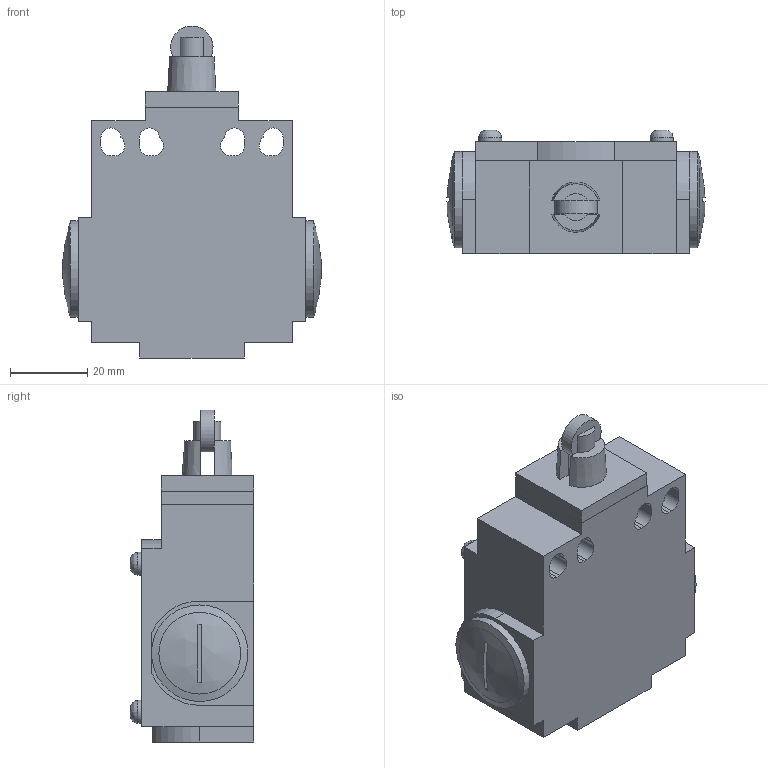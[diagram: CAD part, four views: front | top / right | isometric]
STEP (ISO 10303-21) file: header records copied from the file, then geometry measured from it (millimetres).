
FILE_DESCRIPTION((''),'2;1');
FILE_NAME('D:\Documenti_D\Corrispondenza\Comepi\Catalogo da fare\Modelli Nov 2011\DM e CM\STEP\DM1-F12.iam.step','2011-11-17T12:00:55',(''),(''),'Autodesk Inventor 2010','Autodesk Inventor 2010','');
FILE_SCHEMA(('AUTOMOTIVE_DESIGN { 1 0 10303 214 1 1 1 1 }'));
Length unit declared in the file: millimetre
Products named in the file (7): DM1-F12; T12.iam; T12_1; T12_2; DM1; tappo
Assembly tree (7 placements, depth 3):
  DM1-F12
    T12.iam
      T12_1
      T12_2
    DM1
      DM1
      tappo  x2
Bounding box: 66.83 x 32 x 86 mm (x, y, z)
Volume: 72213.7 mm3; surface area: 24156.1 mm2
Topology: 5 solids, 5 shells, 111 faces, 277 edges, 181 vertices
Faces by surface type: plane 69, cylinder 31, cone 5, bspline 4, sphere 2
Full cylindrical faces by diameter (mm): 6 x4, 7 x1, 11 x1, 20.4 x2, 25 x2
Entity records: 3472 total; most frequent: CARTESIAN_POINT 783, DIRECTION 536, ORIENTED_EDGE 480, EDGE_CURVE 240, AXIS2_PLACEMENT_3D 190, VERTEX_POINT 165, VECTOR 156, LINE 156
